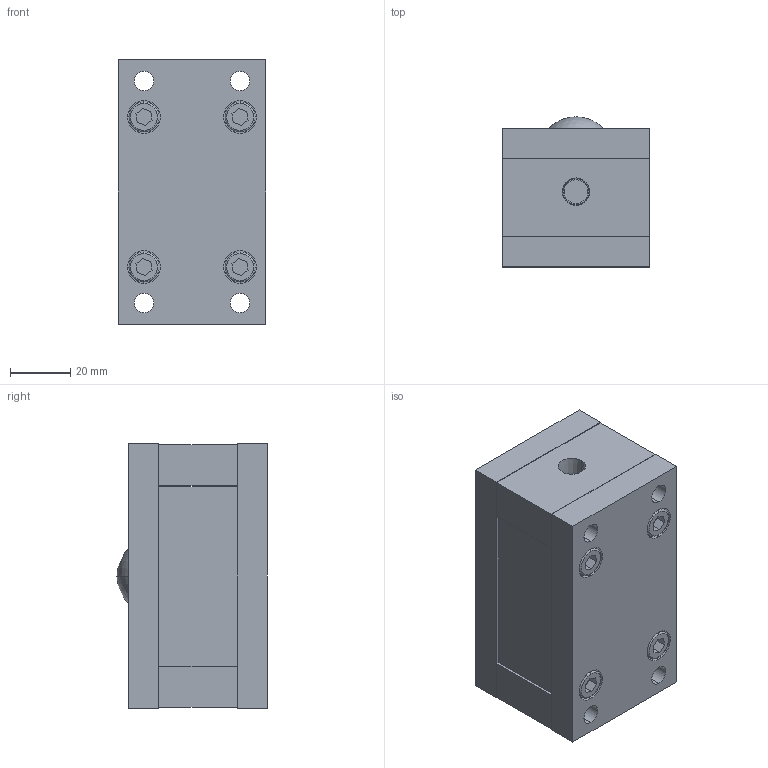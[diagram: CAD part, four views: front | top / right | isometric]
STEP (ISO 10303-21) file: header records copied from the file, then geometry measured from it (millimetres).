
FILE_DESCRIPTION (( 'STEP AP203' ), '1' );
FILE_NAME ('PVL55S-1.STEP', '2016-01-06T07:57:01', ( '' ), ( '' ), 'SwSTEP 2.0', 'SolidWorks 2013', '' );
FILE_SCHEMA (( 'CONFIG_CONTROL_DESIGN' ));
Length unit declared in the file: millimetre
Products named in the file (1): PVL55S-1
Bounding box: 49 x 50 x 88 mm (x, y, z)
Volume: 185788.4 mm3; surface area: 31200.6 mm2
Topology: 1 solids, 1 shells, 117 faces, 272 edges, 179 vertices
Faces by surface type: plane 67, cylinder 38, torus 8, sphere 2, cone 2
Entity records: 3451 total; most frequent: DIRECTION 608, CARTESIAN_POINT 569, ORIENTED_EDGE 544, EDGE_CURVE 272, AXIS2_PLACEMENT_3D 218, VERTEX_POINT 179, LINE 172, VECTOR 172
